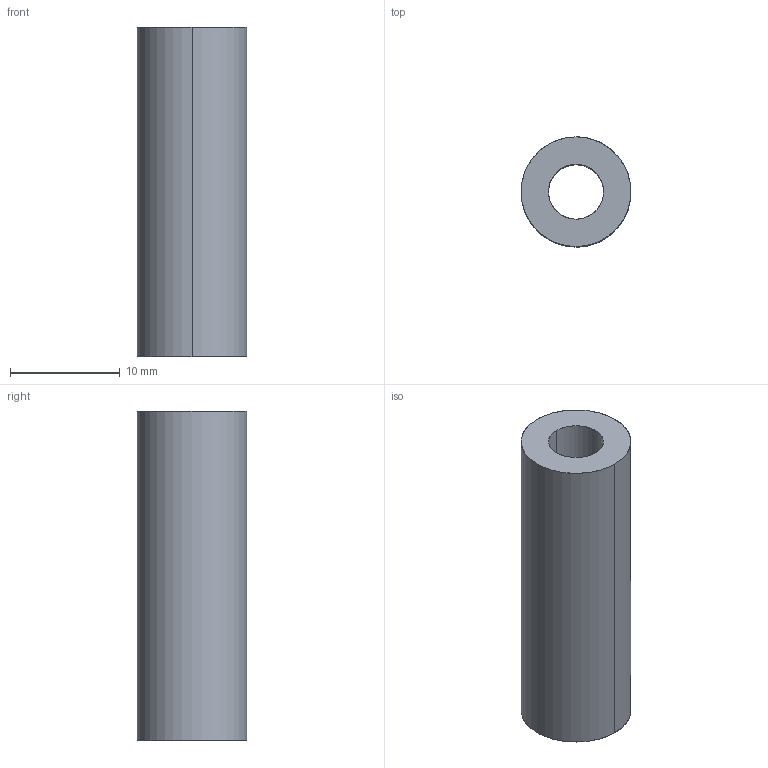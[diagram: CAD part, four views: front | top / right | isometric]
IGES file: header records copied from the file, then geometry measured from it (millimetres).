
Global section: file name: E:\UnigraphicsGraphicData\MISUMI_PRESS-PARTS\IGES\3d_swv10-30_00753_r00.igs; native system: NX V5.0; preprocessor: UGS NX IGES V5.0; author: MISUMI; date: 20110105.163300; units: millimetre
Bounding box: 10 x 10 x 30 mm (x, y, z)
Surface area: 1531.9 mm2 (no closed solid volume)
Topology: 0 solids, 0 shells, 6 faces, 48 edges, 48 vertices
Faces by surface type: bspline 6
